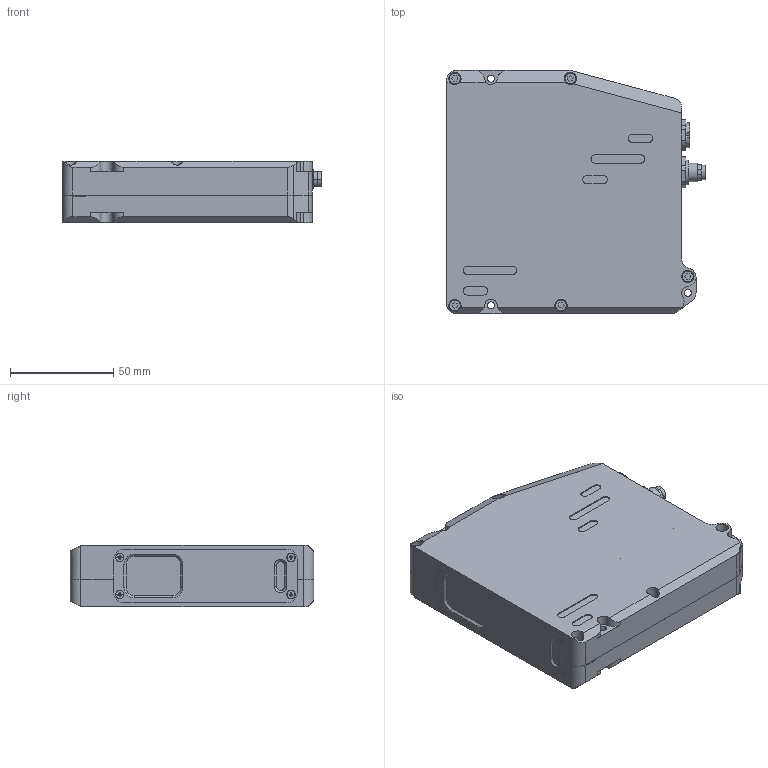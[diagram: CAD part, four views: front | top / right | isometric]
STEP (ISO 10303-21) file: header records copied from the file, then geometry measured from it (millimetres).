
FILE_DESCRIPTION (( 'STEP AP203' ), '1' );
FILE_NAME ('ÐÔ 625-90_10.STEP', '2014-04-24T12:31:02', ( 'Serg' ), ( '' ), 'SwSTEP 2.0', 'SolidWorks 2012', '' );
FILE_SCHEMA (( 'CONFIG_CONTROL_DESIGN' ));
Length unit declared in the file: millimetre
Products named in the file (15): 俶 625-90_10; Raz_09_0412_80_04; Îáúåêòèâ 50 ðåçàíûé; Ñòåêëî 8õ16; Ñòåêëî 23.5õ28; Âèíò_Ì2õ4; ÐÔ 625.90_Ðàìêà îêíà; Âèíò_Ì3õ12; Øàéáà ïðóæèííàÿ_3; Ãàéêà Raz_09_0427_80_08; Raz_09_0427_80_05; 性 625.90_署赅; Ïðèçìà 6õ90; ﾋ珸褞; 俶 625.90_扻豵鵨
Assembly tree (22 placements, depth 2):
  俶 625-90_10
    俶 625.90_扻豵鵨
    ﾋ珸褞
    Ïðèçìà 6õ90
    性 625.90_署赅
    Raz_09_0427_80_05
    Ãàéêà Raz_09_0427_80_08  x2
    Øàéáà ïðóæèííàÿ_3
    Âèíò_Ì3õ12  x5
    ÐÔ 625.90_Ðàìêà îêíà
    Âèíò_Ì2õ4  x4
    Ñòåêëî 23.5õ28
    Ñòåêëî 8õ16
    Îáúåêòèâ 50 ðåçàíûé
    Raz_09_0412_80_04
Bounding box: 125.5 x 118 x 30 mm (x, y, z)
Volume: 132977.4 mm3; surface area: 95613.8 mm2
Topology: 22 solids, 22 shells, 1118 faces, 2905 edges, 1897 vertices
Faces by surface type: plane 524, cylinder 485, cone 93, torus 14, sphere 2
Entity records: 32154 total; most frequent: CARTESIAN_POINT 5687, DIRECTION 5392, ORIENTED_EDGE 5034, EDGE_CURVE 2517, AXIS2_PLACEMENT_3D 1978, VERTEX_POINT 1661, LINE 1436, VECTOR 1436
